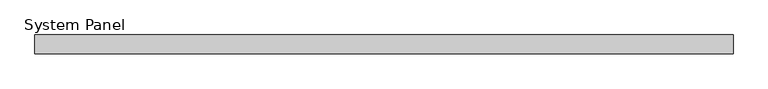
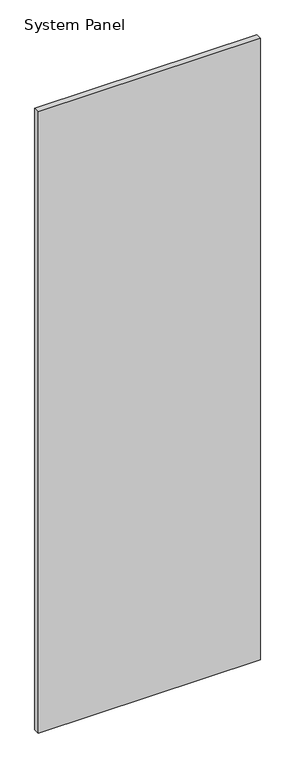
"""IFC4 building model written with IfcOpenShell, lengths in millimetres: plate geometry, System Panel : Panel_Glazed_Generic Showcase_30mm."""

from ifc_helpers import new_model, si_unit, origin, origin_with_axes, place, context, project, spatial, polyline, outline, extrude, source, transform, mapped, element, save


def system_panel_770c4b70(model_context):
    return source(origin(), model_context, "Body", "SweptSolid", [
        extrude(outline(polyline([(558.3333333, -30.0), (-558.3333333, -30.0), (-558.3333333, 0.0), (558.3333333, 0.0), (558.3333333, -30.0)])), origin_with_axes(), (0.0, 0.0, 1.0), 3300.0),
    ])


if __name__ == "__main__":
    model = new_model("IFC4")
    model_context = context("Model", 3, world=origin())
    ifc_project = project(units=[si_unit("LENGTHUNIT", "METRE", prefix="MILLI")], contexts=[model_context])
    site = spatial("IfcSite", under=ifc_project)
    building = spatial("IfcBuilding", under=site)
    placement = place(None, origin())
    system_panel_shape = system_panel_770c4b70(model_context)
    element("IfcPlate", 1, ObjectType="System Panel : Panel_Glazed_Generic Showcase_30mm", at=placement, inside=building, context=model_context, shape_type="MappedRepresentation", body=[
        mapped(system_panel_shape, transform((0.0, 0.0, 0.0), x_axis=(1.0, 0.0, 0.0), y_axis=(0.0, 1.0, 0.0), z_axis=(0.0, 0.0, 1.0))),
    ])
    save(model, "model.ifc")
